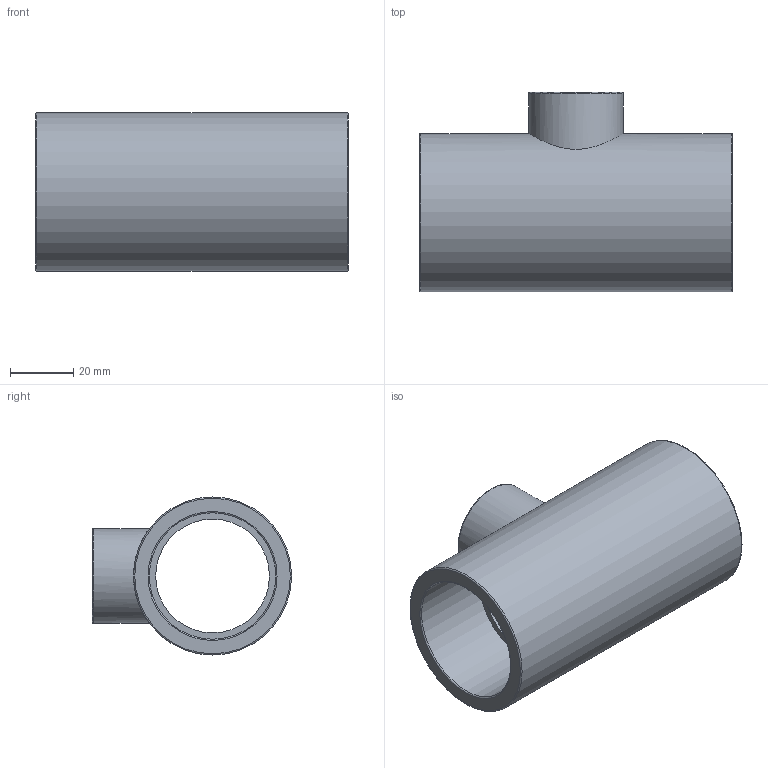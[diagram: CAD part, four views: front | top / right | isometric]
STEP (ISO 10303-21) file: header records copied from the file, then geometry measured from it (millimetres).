
FILE_DESCRIPTION(/* description */ ('PLASSON REDUCER TEE - CEMENT PVC 40-20-40'),/* implementation_level */ '2;1');
FILE_NAME(/* name */ 'C:\Dropbox\KIMPROJECTS-Inventor\99-16-3568-Processing\PVC Catalog 2017\051400\051400040020.ipt.stp',/* time_stamp */ '2017-12-07T16:00:12+02:00',/* author */ ('KIM'),/* organization */ (''),/* preprocessor_version */ 'ST-DEVELOPER v15.6',/* originating_system */ 'Autodesk Inventor 2015',/* authorisation */ '');
FILE_SCHEMA (('AUTOMOTIVE_DESIGN { 1 0 10303 214 3 1 1 }'));
Length unit declared in the file: millimetre
Products named in the file (1): 051400040020
Bounding box: 99 x 63 x 50 mm (x, y, z)
Volume: 85009.5 mm3; surface area: 31366.1 mm2
Topology: 1 solids, 1 shells, 19 faces, 39 edges, 24 vertices
Faces by surface type: cylinder 7, torus 6, plane 6
Full cylindrical faces by diameter (mm): 18 x1, 20 x1, 30 x1, 36 x1, 40 x2, 50 x1
Entity records: 502 total; most frequent: CARTESIAN_POINT 142, DIRECTION 76, EDGE_LOOP 40, ORIENTED_EDGE 40, AXIS2_PLACEMENT_3D 38, FACE_BOUND 21, VERTEX_POINT 20, EDGE_CURVE 20
